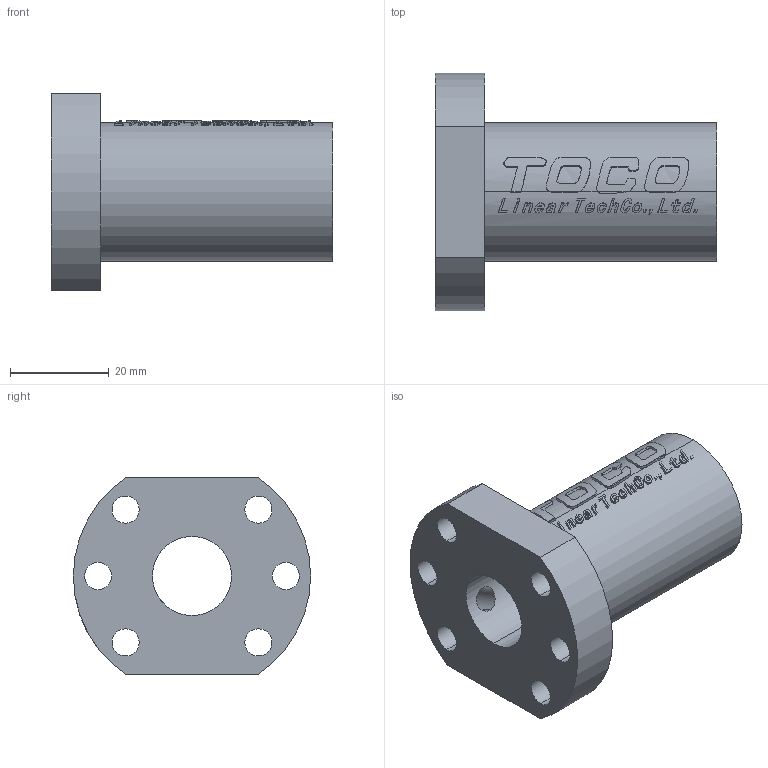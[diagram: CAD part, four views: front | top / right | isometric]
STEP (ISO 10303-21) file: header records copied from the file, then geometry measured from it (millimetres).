
FILE_DESCRIPTION (( 'STEP AP214' ), '1' );
FILE_NAME ('7.3104 STNUR1610T3D.STEP', '2026-03-03T12:45:30', ( '' ), ( '' ), 'SwSTEP 2.0', 'SolidWorks 2025', '' );
FILE_SCHEMA (( 'AUTOMOTIVE_DESIGN' ));
Length unit declared in the file: millimetre
Products named in the file (1): 7.3104 STNUR1610T3D
Bounding box: 57 x 48 x 40 mm (x, y, z)
Volume: 32480 mm3; surface area: 12534.8 mm2
Topology: 1 solids, 1 shells, 562 faces, 1599 edges, 1066 vertices
Faces by surface type: bspline 425, plane 83, cylinder 54
Entity records: 29282 total; most frequent: CARTESIAN_POINT 17547, ORIENTED_EDGE 3198, EDGE_CURVE 1599, VERTEX_POINT 1066, DIRECTION 1052, B_SPLINE_CURVE_WITH_KNOTS 877, LINE 668, VECTOR 668
